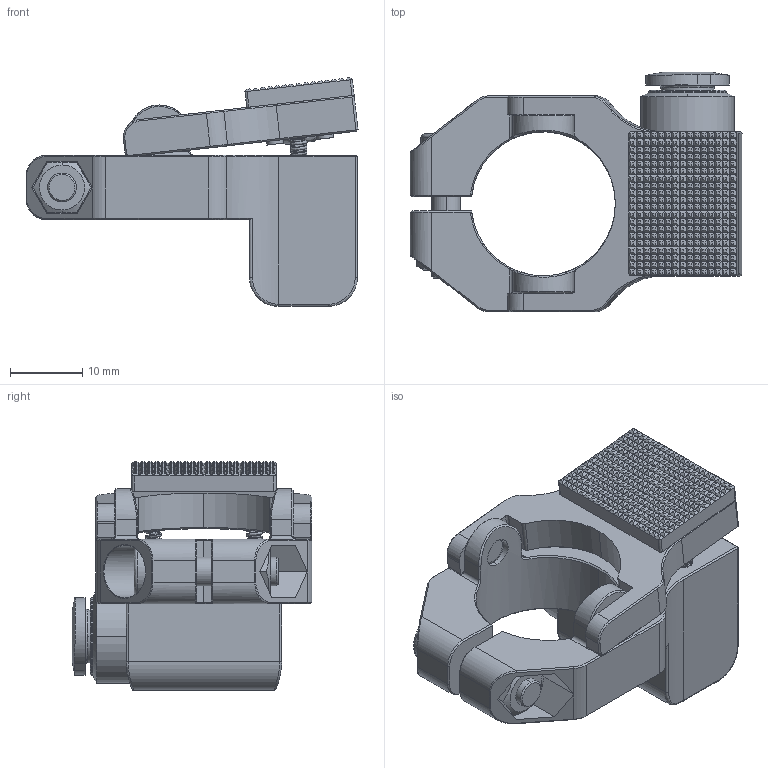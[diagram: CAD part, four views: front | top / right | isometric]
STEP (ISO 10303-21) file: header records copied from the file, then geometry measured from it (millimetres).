
FILE_DESCRIPTION (( 'STEP AP203' ), '1' );
FILE_NAME ('GFR20V-Õæ¿Õ¼ì²â¼Ð¾ßË¨.STEP', '2023-11-27T07:07:24', ( '' ), ( '' ), 'SwSTEP 2.0', 'SolidWorks 2018', '' );
FILE_SCHEMA (( 'CONFIG_CONTROL_DESIGN' ));
Length unit declared in the file: millimetre
Products named in the file (1): GFR20V-淩諾潰聆標撿邡
Bounding box: 46.08 x 33.3 x 31.74 mm (x, y, z)
Volume: 13651.1 mm3; surface area: 9264.5 mm2
Topology: 1 solids, 1 shells, 1943 faces, 4100 edges, 2180 vertices
Faces by surface type: plane 1651, cylinder 123, bspline 99, cone 70
Entity records: 76689 total; most frequent: CARTESIAN_POINT 36729, ORIENTED_EDGE 8188, DIRECTION 7903, EDGE_CURVE 4094, LINE 3509, VECTOR 3509, AXIS2_PLACEMENT_3D 2197, VERTEX_POINT 2180
